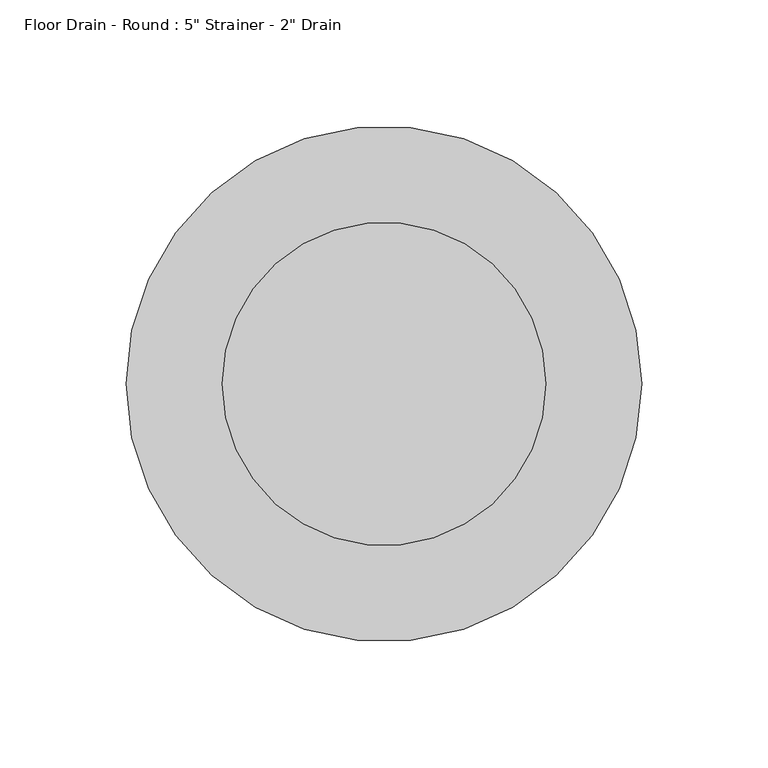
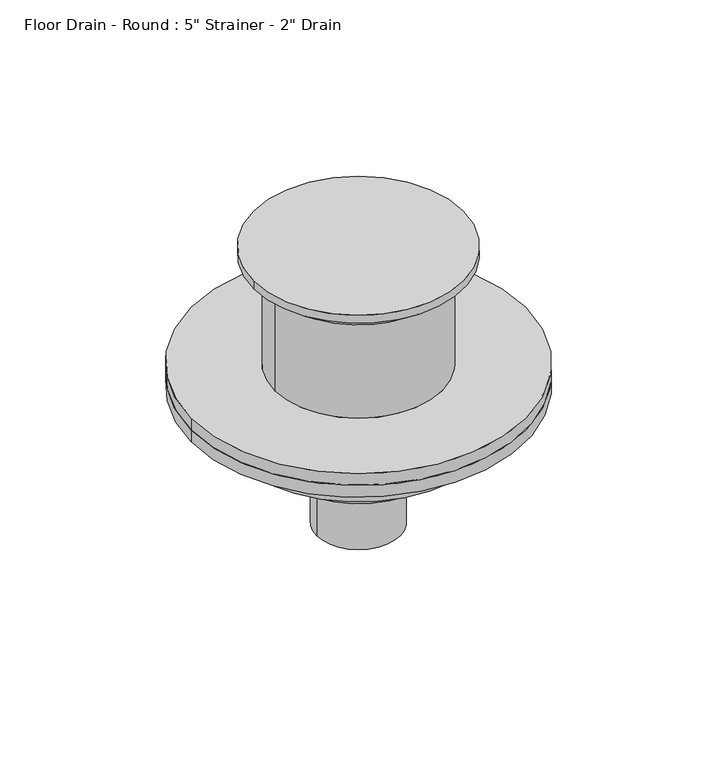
"""IFC4 building model written with IfcOpenShell, lengths in millimetres: flow terminal geometry."""

from ifc_helpers import new_model, si_unit, frame, origin, place, context, project, spatial, polyline, circle_curve, source, transform, mapped, element, save
from ifc_brep_helpers import plane_surface, cylinder_surface, revolved_surface, advanced_brep


def flow_terminal_b70e5d94(model_context):
    return source(origin(), model_context, "Body", "AdvancedBrep", [
        advanced_brep(
        [(25.4, 0.0, -178.0), (-25.4, 0.0, -178.0), (-25.4, 0.0, -130.5), (25.4, 0.0, -130.5), (50.9333333, 0.0, -130.5), (-50.9333333, 0.0, -130.5), (-50.9333333, 0.0, -111.5), (50.9333333, 0.0, -111.5), (76.4666667, 0.0, -111.5), (-76.4666667, 0.0, -111.5), (-76.4666667, 0.0, -90.62), (76.4666667, 0.0, -90.62), (102.0, 0.0, -83.0), (-102.0, 0.0, -83.0), (102.0, 0.0, -90.62), (-102.0, 0.0, -90.62)],
        [
            (0, 1, circle_curve(frame((0.0, 0.0, -178.0), z_axis=(0.0, 0.0, -1.0), x_axis=(-1.0, 0.0, 0.0)), 25.4)),
            (1, 0, circle_curve(frame((0.0, 0.0, -178.0), z_axis=(0.0, 0.0, -1.0), x_axis=(-1.0, 0.0, 0.0)), 25.4)),
            (1, 2),
            (2, 3, circle_curve(frame((0.0, 0.0, -130.5), z_axis=(0.0, 0.0, -1.0), x_axis=(-1.0, 0.0, 0.0)), 25.4)),
            (3, 0),
            (3, 2, circle_curve(frame((0.0, 0.0, -130.5), z_axis=(0.0, 0.0, -1.0), x_axis=(-1.0, 0.0, 0.0)), 25.4)),
            (4, 5, circle_curve(frame((0.0, 0.0, -130.5), z_axis=(0.0, 0.0, -1.0), x_axis=(-1.0, 0.0, 0.0)), 50.9333333)),
            (5, 4, circle_curve(frame((0.0, 0.0, -130.5), z_axis=(0.0, 0.0, -1.0), x_axis=(-1.0, 0.0, 0.0)), 50.9333333)),
            (5, 6),
            (6, 7, circle_curve(frame((0.0, 0.0, -111.5), z_axis=(0.0, 0.0, -1.0), x_axis=(-1.0, 0.0, 0.0)), 50.9333333)),
            (7, 4),
            (7, 6, circle_curve(frame((0.0, 0.0, -111.5), z_axis=(0.0, 0.0, -1.0), x_axis=(-1.0, 0.0, 0.0)), 50.9333333)),
            (8, 9, circle_curve(frame((0.0, 0.0, -111.5), z_axis=(0.0, 0.0, -1.0), x_axis=(-1.0, 0.0, 0.0)), 76.4666667)),
            (9, 8, circle_curve(frame((0.0, 0.0, -111.5), z_axis=(0.0, 0.0, -1.0), x_axis=(-1.0, 0.0, 0.0)), 76.4666667)),
            (9, 10),
            (10, 11, circle_curve(frame((0.0, 0.0, -90.62), z_axis=(0.0, 0.0, -1.0), x_axis=(-1.0, 0.0, 0.0)), 76.4666667)),
            (11, 8),
            (11, 10, circle_curve(frame((0.0, 0.0, -90.62), z_axis=(0.0, 0.0, -1.0), x_axis=(-1.0, 0.0, 0.0)), 76.4666667)),
            (12, 13, circle_curve(frame((0.0, 0.0, -83.0), z_axis=(0.0, 0.0, 1.0), x_axis=(-1.0, 0.0, 0.0)), 102.0)),
            (13, 12, circle_curve(frame((0.0, 0.0, -83.0), z_axis=(0.0, 0.0, 1.0), x_axis=(-1.0, 0.0, 0.0)), 102.0)),
            (14, 15, circle_curve(frame((0.0, 0.0, -90.62), z_axis=(0.0, 0.0, -1.0), x_axis=(-1.0, 0.0, 0.0)), 102.0)),
            (15, 14, circle_curve(frame((0.0, 0.0, -90.62), z_axis=(0.0, 0.0, -1.0), x_axis=(-1.0, 0.0, 0.0)), 102.0)),
            (12, 14),
            (15, 13),
        ],
        [
            plane_surface(frame((-25.4, 0.0, -178.0), z_axis=(0.0, 0.0, -1.0), x_axis=(0.0, 1.0, 0.0))),
            cylinder_surface(frame((0.0, 0.0, -178.0), z_axis=(0.0, 0.0, 1.0), x_axis=(-1.0, 0.0, 0.0)), 25.4),
            plane_surface(frame((-50.9333333, 0.0, -130.5), z_axis=(0.0, 0.0, -1.0), x_axis=(0.0, 1.0, 0.0))),
            cylinder_surface(frame((0.0, 0.0, -130.5), z_axis=(0.0, 0.0, 1.0), x_axis=(-1.0, 0.0, 0.0)), 50.9333333),
            plane_surface(frame((-76.4666667, 0.0, -111.5), z_axis=(0.0, 0.0, -1.0), x_axis=(0.0, 1.0, 0.0))),
            cylinder_surface(frame((0.0, 0.0, -111.5), z_axis=(0.0, 0.0, 1.0), x_axis=(-1.0, 0.0, 0.0)), 76.4666667),
            plane_surface(frame((-102.0, 0.0, -83.0), z_axis=(0.0, 0.0, 1.0), x_axis=(0.0, -1.0, 0.0))),
            plane_surface(frame((-102.0, 0.0, -90.62), z_axis=(0.0, 0.0, -1.0), x_axis=(0.0, 1.0, 0.0))),
            cylinder_surface(frame((0.0, 0.0, -90.62), z_axis=(0.0, 0.0, 1.0), x_axis=(-1.0, 0.0, 0.0)), 102.0),
        ],
        [
            (0, [[1, 2]]),
            (1, [[-2, 3, 4, 5]]),
            (1, [[-1, -5, 6, -3]]),
            (2, [[7, 8], [-4, -6]]),
            (3, [[-8, 9, 10, 11]]),
            (3, [[-7, -11, 12, -9]]),
            (4, [[13, 14], [-10, -12]]),
            (5, [[-14, 15, 16, 17]]),
            (5, [[-13, -17, 18, -15]]),
            (6, [[19, 20]]),
            (7, [[21, 22], [-16, -18]]),
            (8, [[-19, 23, -22, 24]]),
            (8, [[-20, -24, -21, -23]]),
        ],
    ),
        advanced_brep(
        [(102.0, 0.0, -75.38), (-102.0, 0.0, -75.38), (-51.0, 0.0, -75.38), (51.0, 0.0, -75.38), (102.0, 0.0, -83.0), (-102.0, 0.0, -83.0), (51.0, 0.0, -15.24), (-51.0, 0.0, -15.24), (-64.0, 0.0, -5.08), (64.0, 0.0, -5.08), (64.0, 0.0, 0.0), (-64.0, 0.0, 0.0)],
        [
            (0, 1, circle_curve(frame((0.0, 0.0, -75.38), z_axis=(0.0, 0.0, 1.0), x_axis=(-1.0, 0.0, 0.0)), 102.0)),
            (1, 0, circle_curve(frame((0.0, 0.0, -75.38), z_axis=(0.0, 0.0, 1.0), x_axis=(-1.0, 0.0, 0.0)), 102.0)),
            (2, 3, circle_curve(frame((0.0, 0.0, -75.38), z_axis=(0.0, 0.0, -1.0), x_axis=(-1.0, 0.0, 0.0)), 51.0)),
            (3, 2, circle_curve(frame((0.0, 0.0, -75.38), z_axis=(0.0, 0.0, -1.0), x_axis=(-1.0, 0.0, 0.0)), 51.0)),
            (4, 5, circle_curve(frame((0.0, 0.0, -83.0), z_axis=(0.0, 0.0, -1.0), x_axis=(-1.0, 0.0, 0.0)), 102.0)),
            (5, 4, circle_curve(frame((0.0, 0.0, -83.0), z_axis=(0.0, 0.0, -1.0), x_axis=(-1.0, 0.0, 0.0)), 102.0)),
            (0, 4),
            (5, 1),
            (6, 3),
            (2, 7),
            (7, 6, circle_curve(frame((0.0, 0.0, -15.24), z_axis=(0.0, 0.0, -1.0), x_axis=(-1.0, 0.0, 0.0)), 51.0)),
            (6, 7, circle_curve(frame((0.0, 0.0, -15.24), z_axis=(0.0, 0.0, -1.0), x_axis=(-1.0, 0.0, 0.0)), 51.0)),
            (7, 8),
            (8, 9, circle_curve(frame((0.0, 0.0, -5.08), z_axis=(0.0, 0.0, -1.0), x_axis=(-1.0, 0.0, 0.0)), 64.0)),
            (9, 6),
            (9, 8, circle_curve(frame((0.0, 0.0, -5.08), z_axis=(0.0, 0.0, -1.0), x_axis=(-1.0, 0.0, 0.0)), 64.0)),
            (10, 11, circle_curve(frame((0.0, 0.0, 0.0), z_axis=(0.0, 0.0, 1.0), x_axis=(-1.0, 0.0, 0.0)), 64.0)),
            (11, 10, circle_curve(frame((0.0, 0.0, 0.0), z_axis=(0.0, 0.0, 1.0), x_axis=(-1.0, 0.0, 0.0)), 64.0)),
            (10, 9),
            (8, 11),
        ],
        [
            plane_surface(frame((-102.0, 0.0, -75.38), z_axis=(0.0, 0.0, 1.0), x_axis=(0.0, -1.0, 0.0))),
            plane_surface(frame((-102.0, 0.0, -83.0), z_axis=(0.0, 0.0, -1.0), x_axis=(0.0, 1.0, 0.0))),
            cylinder_surface(frame((0.0, 0.0, -83.0), z_axis=(0.0, 0.0, 1.0), x_axis=(-1.0, 0.0, 0.0)), 102.0),
            cylinder_surface(frame((0.0, 0.0, -75.38), z_axis=(0.0, 0.0, 1.0), x_axis=(-1.0, 0.0, 0.0)), 51.0),
            revolved_surface(polyline([(-64.0, 0.0, -5.08), (-51.0, 0.0, -15.24)]), (0.0, 0.0, 44.45), (0.0, 0.0, -1.0)),
            plane_surface(frame((-64.0, 0.0, 0.0), z_axis=(0.0, 0.0, 1.0), x_axis=(0.0, -1.0, 0.0))),
            cylinder_surface(frame((0.0, 0.0, -5.08), z_axis=(0.0, 0.0, 1.0), x_axis=(-1.0, 0.0, 0.0)), 64.0),
        ],
        [
            (0, [[1, 2], [3, 4]]),
            (1, [[5, 6]]),
            (2, [[-1, 7, -6, 8]]),
            (2, [[-2, -8, -5, -7]]),
            (3, [[9, -3, 10, 11]]),
            (3, [[-9, 12, -10, -4]]),
            (4, [[13, 14, 15, -11]]),
            (4, [[-13, -12, -15, 16]]),
            (5, [[17, 18]]),
            (6, [[-17, 19, -14, 20]]),
            (6, [[-18, -20, -16, -19]]),
        ],
    ),
    ])


if __name__ == "__main__":
    model = new_model("IFC4")
    model_context = context("Model", 3, world=origin())
    ifc_project = project(units=[si_unit("LENGTHUNIT", "METRE", prefix="MILLI")], contexts=[model_context])
    site = spatial("IfcSite", under=ifc_project)
    building = spatial("IfcBuilding", under=site)
    placement = place(None, origin())
    flow_terminal_shape = flow_terminal_b70e5d94(model_context)
    element("IfcFlowTerminal", 1, ObjectType="Floor Drain - Round : 5\" Strainer - 2\" Drain", at=placement, inside=building, context=model_context, shape_type="MappedRepresentation", body=[
        mapped(flow_terminal_shape, transform((0.0, 0.0, 0.0), x_axis=(1.0, 0.0, 0.0), y_axis=(0.0, 1.0, 0.0), z_axis=(0.0, 0.0, 1.0))),
    ])
    save(model, "model.ifc")
